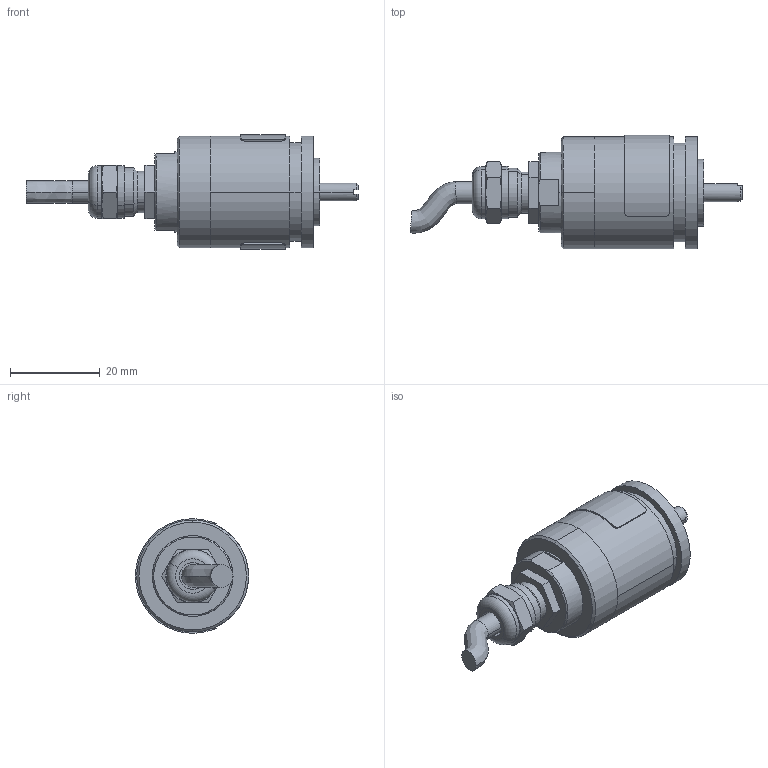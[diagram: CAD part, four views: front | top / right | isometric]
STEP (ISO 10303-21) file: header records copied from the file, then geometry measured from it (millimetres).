
FILE_DESCRIPTION (( 'STEP AP203' ), '1' );
FILE_NAME ('HTx25 4x10 PG.STEP', '2022-05-31T13:11:24', ( '' ), ( '' ), 'SwSTEP 2.0', 'SolidWorks 2019', '' );
FILE_SCHEMA (( 'CONFIG_CONTROL_DESIGN' ));
Length unit declared in the file: millimetre
Products named in the file (1): HTx25 4x10 PG
Bounding box: 74.13 x 25.3 x 25.6 mm (x, y, z)
Surface area: 6938.9 mm2 (no closed solid volume)
Topology: 0 solids, 12 shells, 160 faces, 386 edges, 250 vertices
Faces by surface type: cylinder 59, plane 52, cone 40, bspline 7, torus 2
Entity records: 5377 total; most frequent: CARTESIAN_POINT 1570, DIRECTION 823, ORIENTED_EDGE 702, EDGE_CURVE 386, AXIS2_PLACEMENT_3D 337, VERTEX_POINT 250, EDGE_LOOP 186, CIRCLE 183
